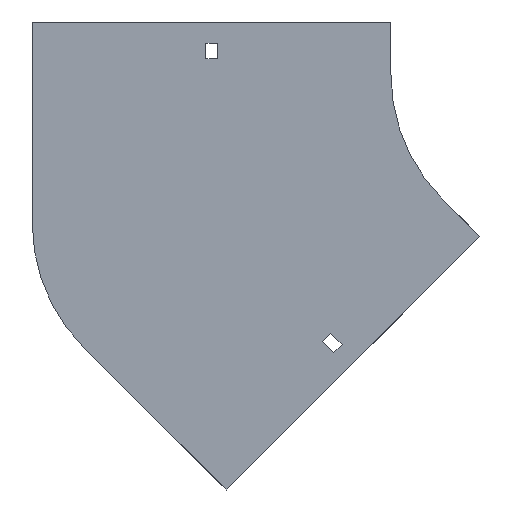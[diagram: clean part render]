
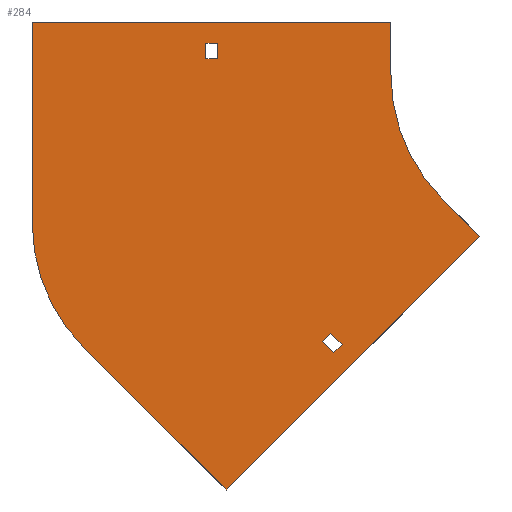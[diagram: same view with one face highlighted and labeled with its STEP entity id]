
A CAD part, front view. The second image highlights one B-rep face of the part: STEP entity #284.
In plain terms, the highlighted planar face has unit normal (0, -1, 0).
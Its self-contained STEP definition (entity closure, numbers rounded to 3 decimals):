
#13 = CIRCLE ( 'NONE', #1317, 100. ) ;
#23 = AXIS2_PLACEMENT_3D ( 'NONE', #764, #1297, #1214 ) ;
#31 = DIRECTION ( 'NONE',  ( -0.707, 0., -0.707 ) ) ;
#33 = EDGE_CURVE ( 'NONE', #959, #713, #90, .T. ) ;
#43 = VECTOR ( 'NONE', #659, 1000. ) ;
#47 = ORIENTED_EDGE ( 'NONE', *, *, #214, .T. ) ;
#49 = LINE ( 'NONE', #568, #1013 ) ;
#57 = CARTESIAN_POINT ( 'NONE',  ( -205.25, 0., 18. ) ) ;
#61 = CARTESIAN_POINT ( 'NONE',  ( -138.77, 0., -151.498 ) ) ;
#85 = CARTESIAN_POINT ( 'NONE',  ( -198.75, 0., 9. ) ) ;
#90 = LINE ( 'NONE', #621, #358 ) ;
#94 = VERTEX_POINT ( 'NONE', #657 ) ;
#116 = VECTOR ( 'NONE', #755, 1000. ) ;
#119 = FACE_OUTER_BOUND ( 'NONE', #609, .T. ) ;
#127 = DIRECTION ( 'NONE',  ( 0., 0., -1. ) ) ;
#131 = DIRECTION ( 'NONE',  ( 0., -1., 0. ) ) ;
#142 = ORIENTED_EDGE ( 'NONE', *, *, #1110, .T. ) ;
#145 = LINE ( 'NONE', #692, #953 ) ;
#154 = ORIENTED_EDGE ( 'NONE', *, *, #871, .F. ) ;
#174 = DIRECTION ( 'NONE',  ( 0., 0., 1. ) ) ;
#193 = ORIENTED_EDGE ( 'NONE', *, *, #425, .F. ) ;
#194 = ORIENTED_EDGE ( 'NONE', *, *, #862, .F. ) ;
#214 = EDGE_CURVE ( 'NONE', #1232, #612, #506, .T. ) ;
#224 = CARTESIAN_POINT ( 'NONE',  ( -304., 0., 30. ) ) ;
#230 = CARTESIAN_POINT ( 'NONE',  ( -70.711, 0., -70.711 ) ) ;
#240 = VERTEX_POINT ( 'NONE', #1209 ) ;
#261 = EDGE_CURVE ( 'NONE', #1031, #1142, #753, .T. ) ;
#271 = DIRECTION ( 'NONE',  ( 0.707, 0., -0.707 ) ) ;
#277 = DIRECTION ( 'NONE',  ( -1., 0., 0. ) ) ;
#281 = ORIENTED_EDGE ( 'NONE', *, *, #33, .F. ) ;
#284 = ADVANCED_FACE ( 'NONE', ( #1099, #119, #441 ), #757, .T. ) ;
#292 = EDGE_CURVE ( 'NONE', #359, #240, #1097, .T. ) ;
#296 = DIRECTION ( 'NONE',  ( -0.707, 0., -0.707 ) ) ;
#306 = VERTEX_POINT ( 'NONE', #224 ) ;
#307 = EDGE_CURVE ( 'NONE', #417, #586, #996, .T. ) ;
#318 = ORIENTED_EDGE ( 'NONE', *, *, #797, .F. ) ;
#330 = LINE ( 'NONE', #451, #944 ) ;
#335 = CARTESIAN_POINT ( 'NONE',  ( -100., 0., 0. ) ) ;
#358 = VECTOR ( 'NONE', #962, 1000. ) ;
#359 = VERTEX_POINT ( 'NONE', #473 ) ;
#360 = CARTESIAN_POINT ( 'NONE',  ( -134.174, 0., -146.901 ) ) ;
#383 = CARTESIAN_POINT ( 'NONE',  ( -100., 0., 30. ) ) ;
#389 = DIRECTION ( 'NONE',  ( 0., 0., -1. ) ) ;
#401 = CARTESIAN_POINT ( 'NONE',  ( -132.406, 0., -157.862 ) ) ;
#410 = LINE ( 'NONE', #856, #1222 ) ;
#415 = CARTESIAN_POINT ( 'NONE',  ( -205.25, 0., 9. ) ) ;
#417 = VERTEX_POINT ( 'NONE', #1405 ) ;
#425 = EDGE_CURVE ( 'NONE', #582, #959, #1337, .T. ) ;
#441 = FACE_BOUND ( 'NONE', #772, .T. ) ;
#451 = CARTESIAN_POINT ( 'NONE',  ( -304., 0., 30. ) ) ;
#469 = LINE ( 'NONE', #360, #1283 ) ;
#473 = CARTESIAN_POINT ( 'NONE',  ( -274.711, 0., -155.21 ) ) ;
#477 = CARTESIAN_POINT ( 'NONE',  ( -127.81, 0., -153.265 ) ) ;
#506 = LINE ( 'NONE', #415, #1032 ) ;
#553 = DIRECTION ( 'NONE',  ( 0., 0., -1. ) ) ;
#557 = CARTESIAN_POINT ( 'NONE',  ( -193.747, 0., -236.174 ) ) ;
#562 = VECTOR ( 'NONE', #271, 1000. ) ;
#568 = CARTESIAN_POINT ( 'NONE',  ( -304., 0., -84.5 ) ) ;
#582 = VERTEX_POINT ( 'NONE', #607 ) ;
#586 = VERTEX_POINT ( 'NONE', #85 ) ;
#607 = CARTESIAN_POINT ( 'NONE',  ( -138.77, 0., -151.498 ) ) ;
#609 = EDGE_LOOP ( 'NONE', ( #154, #1065, #1364, #194, #803, #901, #628, #1249 ) ) ;
#612 = VERTEX_POINT ( 'NONE', #1080 ) ;
#616 = CARTESIAN_POINT ( 'NONE',  ( -49.497, 0., -91.924 ) ) ;
#621 = CARTESIAN_POINT ( 'NONE',  ( -132.406, 0., -157.862 ) ) ;
#628 = ORIENTED_EDGE ( 'NONE', *, *, #1178, .F. ) ;
#642 = VERTEX_POINT ( 'NONE', #383 ) ;
#643 = LINE ( 'NONE', #1084, #1341 ) ;
#644 = EDGE_CURVE ( 'NONE', #240, #306, #49, .T. ) ;
#657 = CARTESIAN_POINT ( 'NONE',  ( -134.174, 0., -146.901 ) ) ;
#658 = VECTOR ( 'NONE', #553, 1000. ) ;
#659 = DIRECTION ( 'NONE',  ( 0.707, 0., -0.707 ) ) ;
#692 = CARTESIAN_POINT ( 'NONE',  ( -205.25, 0., 9. ) ) ;
#700 = AXIS2_PLACEMENT_3D ( 'NONE', #1198, #131, #127 ) ;
#713 = VERTEX_POINT ( 'NONE', #477 ) ;
#753 = LINE ( 'NONE', #230, #43 ) ;
#755 = DIRECTION ( 'NONE',  ( -0.707, 0., 0.707 ) ) ;
#757 = PLANE ( 'NONE',  #700 ) ;
#759 = EDGE_CURVE ( 'NONE', #642, #1063, #1076, .T. ) ;
#763 = CARTESIAN_POINT ( 'NONE',  ( -193.747, 0., -236.174 ) ) ;
#764 = CARTESIAN_POINT ( 'NONE',  ( -204., 0., -84.5 ) ) ;
#772 = EDGE_LOOP ( 'NONE', ( #281, #193, #318, #960 ) ) ;
#787 = LINE ( 'NONE', #57, #1019 ) ;
#792 = CARTESIAN_POINT ( 'NONE',  ( -70.711, 0., -70.711 ) ) ;
#797 = EDGE_CURVE ( 'NONE', #94, #582, #410, .T. ) ;
#803 = ORIENTED_EDGE ( 'NONE', *, *, #1077, .F. ) ;
#847 = DIRECTION ( 'NONE',  ( 0., -1., 0. ) ) ;
#856 = CARTESIAN_POINT ( 'NONE',  ( -138.77, 0., -151.498 ) ) ;
#862 = EDGE_CURVE ( 'NONE', #1061, #359, #1311, .T. ) ;
#871 = EDGE_CURVE ( 'NONE', #306, #642, #330, .T. ) ;
#889 = VECTOR ( 'NONE', #1165, 1000. ) ;
#901 = ORIENTED_EDGE ( 'NONE', *, *, #261, .F. ) ;
#941 = ORIENTED_EDGE ( 'NONE', *, *, #307, .T. ) ;
#944 = VECTOR ( 'NONE', #1093, 1000. ) ;
#953 = VECTOR ( 'NONE', #277, 1000. ) ;
#959 = VERTEX_POINT ( 'NONE', #401 ) ;
#960 = ORIENTED_EDGE ( 'NONE', *, *, #1251, .F. ) ;
#962 = DIRECTION ( 'NONE',  ( 0.707, 0., 0.707 ) ) ;
#978 = CARTESIAN_POINT ( 'NONE',  ( -205.25, 0., 9. ) ) ;
#989 = CARTESIAN_POINT ( 'NONE',  ( -198.75, 0., 9. ) ) ;
#996 = LINE ( 'NONE', #989, #658 ) ;
#1013 = VECTOR ( 'NONE', #1145, 1000. ) ;
#1019 = VECTOR ( 'NONE', #1226, 1000. ) ;
#1031 = VERTEX_POINT ( 'NONE', #792 ) ;
#1032 = VECTOR ( 'NONE', #174, 1000. ) ;
#1061 = VERTEX_POINT ( 'NONE', #763 ) ;
#1063 = VERTEX_POINT ( 'NONE', #335 ) ;
#1065 = ORIENTED_EDGE ( 'NONE', *, *, #644, .F. ) ;
#1076 = LINE ( 'NONE', #1402, #889 ) ;
#1077 = EDGE_CURVE ( 'NONE', #1142, #1061, #643, .T. ) ;
#1080 = CARTESIAN_POINT ( 'NONE',  ( -205.25, 0., 18. ) ) ;
#1084 = CARTESIAN_POINT ( 'NONE',  ( -49.497, 0., -91.924 ) ) ;
#1093 = DIRECTION ( 'NONE',  ( 1., 0., 0. ) ) ;
#1097 = CIRCLE ( 'NONE', #23, 100. ) ;
#1099 = FACE_BOUND ( 'NONE', #1339, .T. ) ;
#1110 = EDGE_CURVE ( 'NONE', #612, #417, #787, .T. ) ;
#1122 = DIRECTION ( 'NONE',  ( -0.707, 0., 0.707 ) ) ;
#1142 = VERTEX_POINT ( 'NONE', #616 ) ;
#1145 = DIRECTION ( 'NONE',  ( 0., 0., 1. ) ) ;
#1165 = DIRECTION ( 'NONE',  ( 0., 0., -1. ) ) ;
#1178 = EDGE_CURVE ( 'NONE', #1063, #1031, #13, .T. ) ;
#1198 = CARTESIAN_POINT ( 'NONE',  ( 0., 0., 0. ) ) ;
#1209 = CARTESIAN_POINT ( 'NONE',  ( -304., 0., -84.5 ) ) ;
#1214 = DIRECTION ( 'NONE',  ( 0., 0., 1. ) ) ;
#1222 = VECTOR ( 'NONE', #296, 1000. ) ;
#1226 = DIRECTION ( 'NONE',  ( 1., 0., 0. ) ) ;
#1232 = VERTEX_POINT ( 'NONE', #978 ) ;
#1249 = ORIENTED_EDGE ( 'NONE', *, *, #759, .F. ) ;
#1251 = EDGE_CURVE ( 'NONE', #713, #94, #469, .T. ) ;
#1283 = VECTOR ( 'NONE', #1122, 1000. ) ;
#1297 = DIRECTION ( 'NONE',  ( 0., 1., 0. ) ) ;
#1311 = LINE ( 'NONE', #557, #116 ) ;
#1317 = AXIS2_PLACEMENT_3D ( 'NONE', #1384, #847, #389 ) ;
#1337 = LINE ( 'NONE', #61, #562 ) ;
#1339 = EDGE_LOOP ( 'NONE', ( #47, #142, #941, #1380 ) ) ;
#1341 = VECTOR ( 'NONE', #31, 1000. ) ;
#1364 = ORIENTED_EDGE ( 'NONE', *, *, #292, .F. ) ;
#1378 = EDGE_CURVE ( 'NONE', #586, #1232, #145, .T. ) ;
#1380 = ORIENTED_EDGE ( 'NONE', *, *, #1378, .T. ) ;
#1384 = CARTESIAN_POINT ( 'NONE',  ( 0., 0., 0. ) ) ;
#1402 = CARTESIAN_POINT ( 'NONE',  ( -100., 0., 30. ) ) ;
#1405 = CARTESIAN_POINT ( 'NONE',  ( -198.75, 0., 18. ) ) ;
